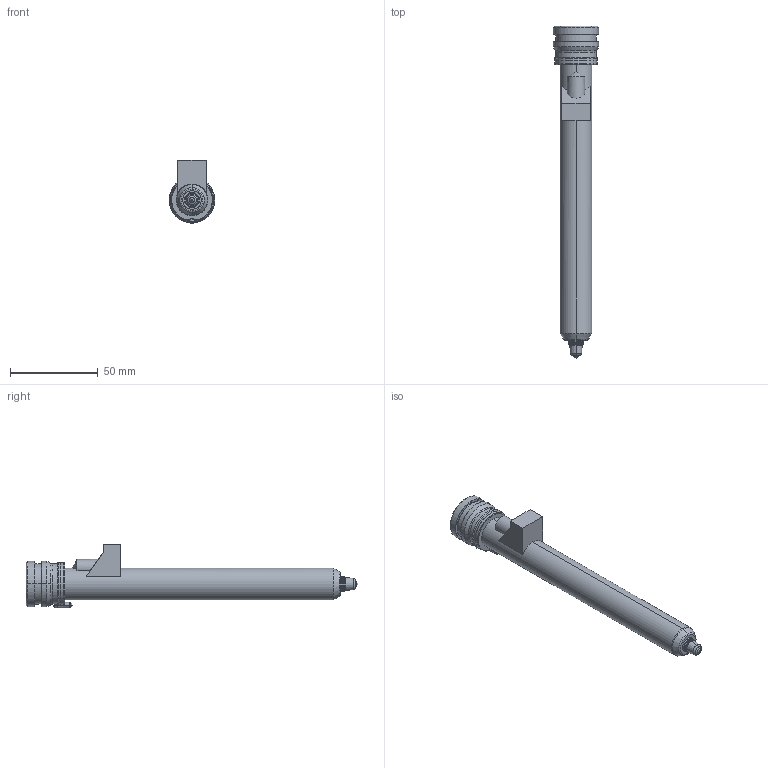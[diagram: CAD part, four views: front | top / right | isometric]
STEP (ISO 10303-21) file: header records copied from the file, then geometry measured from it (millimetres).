
FILE_DESCRIPTION((''),'2;1');
FILE_NAME('TH18171-M-1B50-PK-JG','2023-12-14T',('umhib'),('Thermoplay S.p.A.'),'PRO/ENGINEER BY PARAMETRIC TECHNOLOGY CORPORATION, 2017170','PRO/ENGINEER BY PARAMETRIC TECHNOLOGY CORPORATION, 2017170','');
FILE_SCHEMA(('CONFIG_CONTROL_DESIGN'));
Length unit declared in the file: millimetre
Products named in the file (1): TH18171-M-1B50-PK-JG
Bounding box: 26 x 189 x 36.1 mm (x, y, z)
Volume: 36961.6 mm3; surface area: 27952.9 mm2
Topology: 1 solids, 2 shells, 389 faces, 993 edges, 609 vertices
Faces by surface type: cylinder 149, plane 87, cone 62, torus 56, bspline 22, sphere 11, extrusion 2
Entity records: 16881 total; most frequent: CARTESIAN_POINT 5238, DIRECTION 1992, ORIENTED_EDGE 1960, EDGE_CURVE 982, AXIS2_PLACEMENT_3D 802, VERTEX_POINT 609, CIRCLE 436, EDGE_LOOP 412
